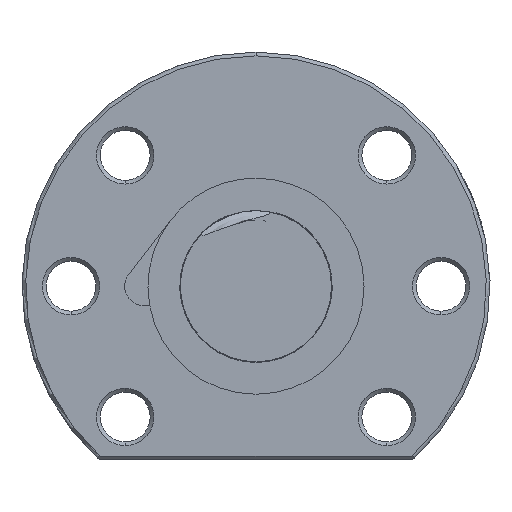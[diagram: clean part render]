
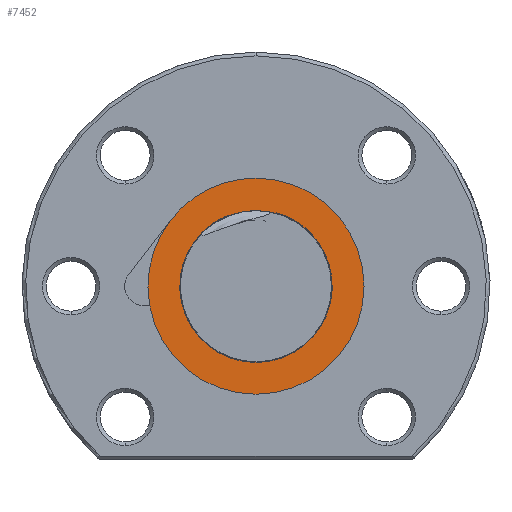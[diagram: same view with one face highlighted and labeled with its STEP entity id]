
A CAD part, left-side view. The second image highlights one B-rep face of the part: STEP entity #7452.
In plain terms, the highlighted planar face has unit normal (-1, 0, 0).
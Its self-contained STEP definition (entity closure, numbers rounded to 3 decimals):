
#7063 = EDGE_CURVE ( 'NONE', #7064, #7065, #21553, .T. ) ;
#7064 = VERTEX_POINT ( 'NONE', #21544 ) ;
#7065 = VERTEX_POINT ( 'NONE', #21542 ) ;
#7077 = EDGE_CURVE ( 'NONE', #7065, #7078, #21480, .T. ) ;
#7078 = VERTEX_POINT ( 'NONE', #21472 ) ;
#7103 = VERTEX_POINT ( 'NONE', #21336 ) ;
#7104 = VERTEX_POINT ( 'NONE', #21333 ) ;
#7196 = EDGE_CURVE ( 'NONE', #7103, #7104, #8040, .T. ) ;
#7209 = EDGE_CURVE ( 'NONE', #7210, #7064, #7899, .T. ) ;
#7210 = VERTEX_POINT ( 'NONE', #7895 ) ;
#7450 = EDGE_LOOP ( 'NONE', ( #7451, #7453, #7505 ) ) ;
#7451 = ORIENTED_EDGE ( 'NONE', *, *, #7468, .F. ) ;
#7452 = ADVANCED_FACE ( 'NONE', ( #8469, #8468 ), #8467, .T. ) ;
#7453 = ORIENTED_EDGE ( 'NONE', *, *, #7504, .F. ) ;
#7457 = VERTEX_POINT ( 'NONE', #8640 ) ;
#7468 = EDGE_CURVE ( 'NONE', #7457, #7103, #8669, .T. ) ;
#7482 = EDGE_LOOP ( 'NONE', ( #7525, #7523, #7522, #7514 ) ) ;
#7504 = EDGE_CURVE ( 'NONE', #7104, #7457, #8557, .T. ) ;
#7505 = ORIENTED_EDGE ( 'NONE', *, *, #7196, .F. ) ;
#7514 = ORIENTED_EDGE ( 'NONE', *, *, #7077, .T. ) ;
#7522 = ORIENTED_EDGE ( 'NONE', *, *, #7063, .T. ) ;
#7523 = ORIENTED_EDGE ( 'NONE', *, *, #7209, .T. ) ;
#7525 = ORIENTED_EDGE ( 'NONE', *, *, #7526, .T. ) ;
#7526 = EDGE_CURVE ( 'NONE', #7078, #7210, #8432, .T. ) ;
#7895 = CARTESIAN_POINT ( 'NONE',  ( -115.8, 14.095, -2.486 ) ) ;
#7896 = DIRECTION ( 'NONE',  ( 0., 0., 1. ) ) ;
#7897 = DIRECTION ( 'NONE',  ( -1., 0., 0. ) ) ;
#7898 = AXIS2_PLACEMENT_3D ( 'NONE', #7905, #7897, #7896 ) ;
#7899 = CIRCLE ( 'NONE', #7898, 14.313 ) ;
#7905 = CARTESIAN_POINT ( 'NONE',  ( -115.8, 0., 0. ) ) ;
#8036 = DIRECTION ( 'NONE',  ( 0., 0., 1. ) ) ;
#8037 = DIRECTION ( 'NONE',  ( -1., 0., 0. ) ) ;
#8038 = CARTESIAN_POINT ( 'NONE',  ( -115.8, 0., 0. ) ) ;
#8039 = AXIS2_PLACEMENT_3D ( 'NONE', #8038, #8037, #8036 ) ;
#8040 = CIRCLE ( 'NONE', #8039, 10.1 ) ;
#8428 = DIRECTION ( 'NONE',  ( 0., 0., 1. ) ) ;
#8429 = DIRECTION ( 'NONE',  ( -1., 0., 0. ) ) ;
#8430 = CARTESIAN_POINT ( 'NONE',  ( -115.8, 0., 0. ) ) ;
#8431 = AXIS2_PLACEMENT_3D ( 'NONE', #8430, #8429, #8428 ) ;
#8432 = CIRCLE ( 'NONE', #8431, 14.313 ) ;
#8442 = CARTESIAN_POINT ( 'NONE',  ( -115.8, 7.028, 7.254 ) ) ;
#8443 = CARTESIAN_POINT ( 'NONE',  ( -115.8, 6.932, 7.21 ) ) ;
#8444 = CARTESIAN_POINT ( 'NONE',  ( -115.8, 6.825, 7.192 ) ) ;
#8445 = CARTESIAN_POINT ( 'NONE',  ( -115.8, 6.614, 7.181 ) ) ;
#8446 = CARTESIAN_POINT ( 'NONE',  ( -115.8, 6.509, 7.188 ) ) ;
#8447 = CARTESIAN_POINT ( 'NONE',  ( -115.8, 6.197, 7.225 ) ) ;
#8448 = CARTESIAN_POINT ( 'NONE',  ( -115.8, 5.99, 7.274 ) ) ;
#8449 = CARTESIAN_POINT ( 'NONE',  ( -115.8, 5.38, 7.438 ) ) ;
#8450 = CARTESIAN_POINT ( 'NONE',  ( -115.8, 4.981, 7.574 ) ) ;
#8451 = CARTESIAN_POINT ( 'NONE',  ( -115.8, 4.181, 7.841 ) ) ;
#8452 = CARTESIAN_POINT ( 'NONE',  ( -115.8, 3.78, 7.973 ) ) ;
#8453 = CARTESIAN_POINT ( 'NONE',  ( -115.8, 2.975, 8.22 ) ) ;
#8454 = CARTESIAN_POINT ( 'NONE',  ( -115.8, 2.57, 8.335 ) ) ;
#8455 = CARTESIAN_POINT ( 'NONE',  ( -115.8, 1.755, 8.544 ) ) ;
#8456 = CARTESIAN_POINT ( 'NONE',  ( -115.8, 1.346, 8.638 ) ) ;
#8457 = CARTESIAN_POINT ( 'NONE',  ( -115.8, 0.523, 8.809 ) ) ;
#8458 = CARTESIAN_POINT ( 'NONE',  ( -115.8, 0.109, 8.886 ) ) ;
#8459 = CARTESIAN_POINT ( 'NONE',  ( -115.8, -0.719, 9.038 ) ) ;
#8460 = CARTESIAN_POINT ( 'NONE',  ( -115.8, -1.134, 9.11 ) ) ;
#8467 = PLANE ( 'NONE',  #8644 ) ;
#8468 = FACE_OUTER_BOUND ( 'NONE', #7482, .T. ) ;
#8469 = FACE_BOUND ( 'NONE', #7450, .T. ) ;
#8550 = CARTESIAN_POINT ( 'NONE',  ( -115.8, -1.745, 9.26 ) ) ;
#8551 = CARTESIAN_POINT ( 'NONE',  ( -115.8, -1.947, 9.316 ) ) ;
#8552 = CARTESIAN_POINT ( 'NONE',  ( -115.8, -2.24, 9.434 ) ) ;
#8553 = CARTESIAN_POINT ( 'NONE',  ( -115.8, -2.336, 9.479 ) ) ;
#8554 = CARTESIAN_POINT ( 'NONE',  ( -115.8, -2.516, 9.59 ) ) ;
#8555 = CARTESIAN_POINT ( 'NONE',  ( -115.8, -2.601, 9.658 ) ) ;
#8556 = CARTESIAN_POINT ( 'NONE',  ( -115.8, -2.664, 9.742 ) ) ;
#8557 = B_SPLINE_CURVE_WITH_KNOTS ( 'NONE', 3,
 ( #8556, #8555, #8554, #8553, #8552, #8551, #8550, #8460, #8459, #8458, #8457, #8456, #8455, #8454, #8453, #8452, #8451, #8450, #8449, #8448, #8447, #8446, #8445, #8444, #8443, #8442 ),
 .UNSPECIFIED., .F., .F.,
 ( 4, 2, 2, 2, 2, 2, 2, 2, 2, 2, 2, 2, 4 ),
 ( 0.013, 0.014, 0.014, 0.015, 0.016, 0.017, 0.018, 0.02, 0.021, 0.022, 0.023, 0.023, 0.023 ),
 .UNSPECIFIED. ) ;
#8640 = CARTESIAN_POINT ( 'NONE',  ( -115.8, 7.028, 7.254 ) ) ;
#8641 = DIRECTION ( 'NONE',  ( 0., 0., 1. ) ) ;
#8642 = DIRECTION ( 'NONE',  ( -1., 0., 0. ) ) ;
#8643 = CARTESIAN_POINT ( 'NONE',  ( -115.8, 0., 10.1 ) ) ;
#8644 = AXIS2_PLACEMENT_3D ( 'NONE', #8643, #8642, #8641 ) ;
#8665 = DIRECTION ( 'NONE',  ( 0., 0., 1. ) ) ;
#8666 = DIRECTION ( 'NONE',  ( -1., 0., 0. ) ) ;
#8667 = CARTESIAN_POINT ( 'NONE',  ( -115.8, 0., 0. ) ) ;
#8668 = AXIS2_PLACEMENT_3D ( 'NONE', #8667, #8666, #8665 ) ;
#8669 = CIRCLE ( 'NONE', #8668, 10.1 ) ;
#21333 = CARTESIAN_POINT ( 'NONE',  ( -115.8, -2.664, 9.742 ) ) ;
#21336 = CARTESIAN_POINT ( 'NONE',  ( -115.8, 0., -10.1 ) ) ;
#21472 = CARTESIAN_POINT ( 'NONE',  ( -115.8, 11.329, 8.746 ) ) ;
#21474 = DIRECTION ( 'NONE',  ( 0., 0., 1. ) ) ;
#21476 = DIRECTION ( 'NONE',  ( -1., 0., 0. ) ) ;
#21478 = AXIS2_PLACEMENT_3D ( 'NONE', #21491, #21476, #21474 ) ;
#21480 = CIRCLE ( 'NONE', #21478, 14.313 ) ;
#21491 = CARTESIAN_POINT ( 'NONE',  ( -115.8, 0., 0. ) ) ;
#21542 = CARTESIAN_POINT ( 'NONE',  ( -115.8, 0., 14.313 ) ) ;
#21544 = CARTESIAN_POINT ( 'NONE',  ( -115.8, 0., -14.313 ) ) ;
#21546 = DIRECTION ( 'NONE',  ( 0., 0., 1. ) ) ;
#21548 = DIRECTION ( 'NONE',  ( -1., 0., 0. ) ) ;
#21550 = CARTESIAN_POINT ( 'NONE',  ( -115.8, 0., 0. ) ) ;
#21551 = AXIS2_PLACEMENT_3D ( 'NONE', #21550, #21548, #21546 ) ;
#21553 = CIRCLE ( 'NONE', #21551, 14.313 ) ;
